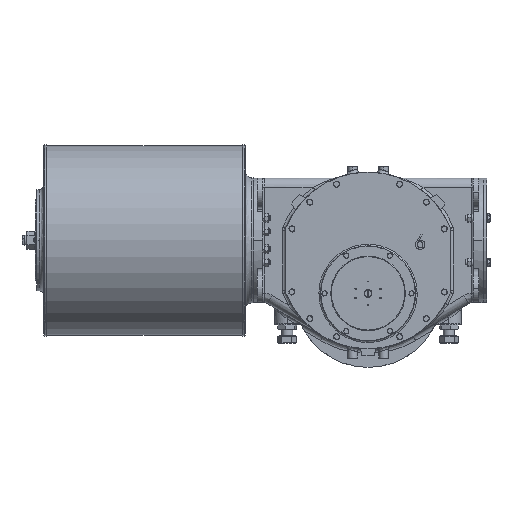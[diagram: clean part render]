
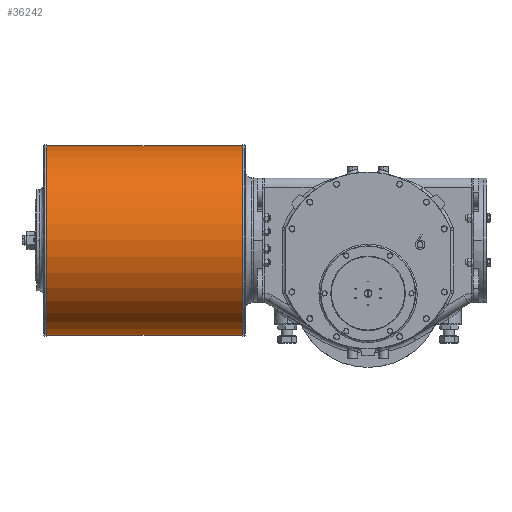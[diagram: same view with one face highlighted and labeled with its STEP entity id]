
A CAD part, top view. The second image highlights one B-rep face of the part: STEP entity #36242.
In plain terms, the highlighted cylindrical face has radius 304.8 mm (diameter 609.6 mm), a partial arc.
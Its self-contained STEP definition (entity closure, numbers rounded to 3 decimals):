
#1433 = ORIENTED_EDGE ( 'NONE', *, *, #71772, .T. ) ;
#1636 = CARTESIAN_POINT ( 'NONE',  ( -1034., 171., 138. ) ) ;
#4537 = VERTEX_POINT ( 'NONE', #55366 ) ;
#4958 = CARTESIAN_POINT ( 'NONE',  ( -404., -133.8, 138. ) ) ;
#5029 = VERTEX_POINT ( 'NONE', #4958 ) ;
#5973 = EDGE_CURVE ( 'NONE', #18750, #4537, #60613, .T. ) ;
#6287 = ORIENTED_EDGE ( 'NONE', *, *, #66665, .T. ) ;
#9679 = VECTOR ( 'NONE', #55769, 1000. ) ;
#14196 = DIRECTION ( 'NONE',  ( 1., 0., 0. ) ) ;
#16700 = DIRECTION ( 'NONE',  ( -1., 0., 0. ) ) ;
#18750 = VERTEX_POINT ( 'NONE', #51892 ) ;
#19332 = AXIS2_PLACEMENT_3D ( 'NONE', #1636, #14196, #52606 ) ;
#19704 = LINE ( 'NONE', #58862, #54975 ) ;
#21731 = EDGE_LOOP ( 'NONE', ( #1433, #6287, #52548, #48743 ) ) ;
#22165 = CARTESIAN_POINT ( 'NONE',  ( -544., -133.8, 138. ) ) ;
#32971 = FACE_OUTER_BOUND ( 'NONE', #21731, .T. ) ;
#36242 = ADVANCED_FACE ( 'NONE', ( #32971 ), #45483, .T. ) ;
#42919 = CARTESIAN_POINT ( 'NONE',  ( -404., 171., 138. ) ) ;
#45483 = CYLINDRICAL_SURFACE ( 'NONE', #46496, 304.8 ) ;
#45764 = EDGE_CURVE ( 'NONE', #5029, #4537, #56132, .T. ) ;
#46496 = AXIS2_PLACEMENT_3D ( 'NONE', #62482, #16700, #51036 ) ;
#46725 = DIRECTION ( 'NONE',  ( -1., 0., 0. ) ) ;
#48743 = ORIENTED_EDGE ( 'NONE', *, *, #45764, .F. ) ;
#49422 = AXIS2_PLACEMENT_3D ( 'NONE', #42919, #46725, #51909 ) ;
#51036 = DIRECTION ( 'NONE',  ( 0., -1., 0. ) ) ;
#51892 = CARTESIAN_POINT ( 'NONE',  ( -1034., 475.8, 138. ) ) ;
#51909 = DIRECTION ( 'NONE',  ( 0., -1., 0. ) ) ;
#52208 = DIRECTION ( 'NONE',  ( -1., 0., 0. ) ) ;
#52548 = ORIENTED_EDGE ( 'NONE', *, *, #5973, .T. ) ;
#52606 = DIRECTION ( 'NONE',  ( 0., -1., 0. ) ) ;
#54975 = VECTOR ( 'NONE', #52208, 1000. ) ;
#55366 = CARTESIAN_POINT ( 'NONE',  ( -1034., -133.8, 138. ) ) ;
#55769 = DIRECTION ( 'NONE',  ( -1., 0., 0. ) ) ;
#56132 = LINE ( 'NONE', #22165, #9679 ) ;
#57664 = CIRCLE ( 'NONE', #49422, 304.8 ) ;
#58862 = CARTESIAN_POINT ( 'NONE',  ( -544., 475.8, 138. ) ) ;
#59159 = CARTESIAN_POINT ( 'NONE',  ( -404., 475.8, 138. ) ) ;
#60613 = CIRCLE ( 'NONE', #19332, 304.8 ) ;
#61582 = VERTEX_POINT ( 'NONE', #59159 ) ;
#62482 = CARTESIAN_POINT ( 'NONE',  ( -544., 171., 138. ) ) ;
#66665 = EDGE_CURVE ( 'NONE', #61582, #18750, #19704, .T. ) ;
#71772 = EDGE_CURVE ( 'NONE', #5029, #61582, #57664, .T. ) ;
